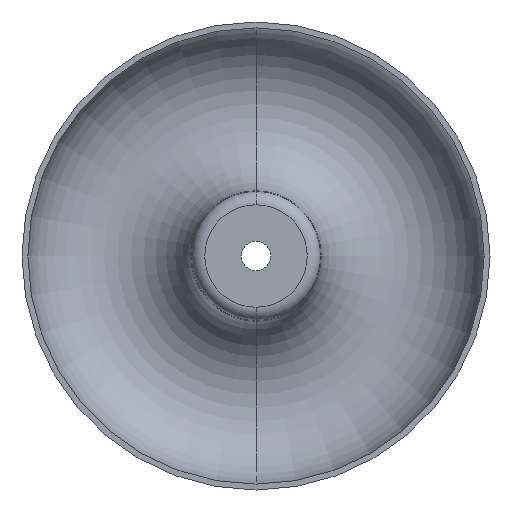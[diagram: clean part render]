
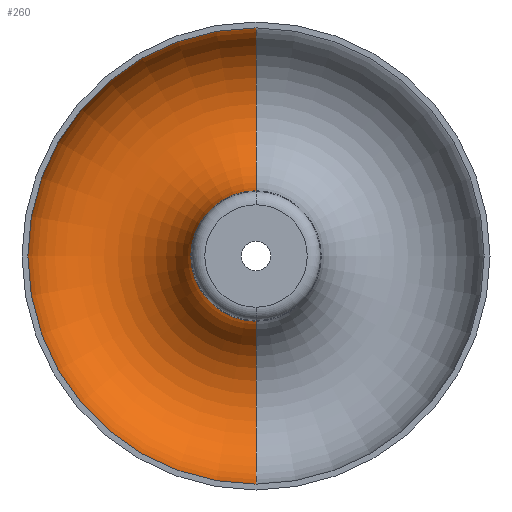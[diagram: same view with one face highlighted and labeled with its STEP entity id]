
A CAD part, front view. The second image highlights one B-rep face of the part: STEP entity #260.
In plain terms, the highlighted toroidal (fillet/blend) face has major radius 100 mm and minor radius 56 mm.
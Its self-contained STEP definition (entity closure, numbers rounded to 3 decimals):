
#10 = VERTEX_POINT ( 'NONE', #246 ) ;
#43 = DIRECTION ( 'NONE',  ( 0., -1., 0. ) ) ;
#57 = CARTESIAN_POINT ( 'NONE',  ( 0., 37.965, 0. ) ) ;
#67 = CARTESIAN_POINT ( 'NONE',  ( 0., 30., 100. ) ) ;
#78 = ORIENTED_EDGE ( 'NONE', *, *, #256, .T. ) ;
#133 = DIRECTION ( 'NONE',  ( 0., 0., 1. ) ) ;
#149 = DIRECTION ( 'NONE',  ( 0., 0., -1. ) ) ;
#164 = CIRCLE ( 'NONE', #322, 44.569 ) ;
#167 = CIRCLE ( 'NONE', #298, 156. ) ;
#199 = DIRECTION ( 'NONE',  ( 1., 0., 0. ) ) ;
#246 = CARTESIAN_POINT ( 'NONE',  ( 0., 30., 156. ) ) ;
#256 = EDGE_CURVE ( 'NONE', #10, #308, #167, .T. ) ;
#260 = ADVANCED_FACE ( 'NONE', ( #777 ), #804, .F. ) ;
#276 = ORIENTED_EDGE ( 'NONE', *, *, #525, .F. ) ;
#281 = EDGE_LOOP ( 'NONE', ( #276, #457, #78, #443 ) ) ;
#298 = AXIS2_PLACEMENT_3D ( 'NONE', #504, #497, #149 ) ;
#308 = VERTEX_POINT ( 'NONE', #659 ) ;
#322 = AXIS2_PLACEMENT_3D ( 'NONE', #57, #686, #546 ) ;
#327 = CIRCLE ( 'NONE', #375, 56. ) ;
#333 = DIRECTION ( 'NONE',  ( -1., 0., 0. ) ) ;
#375 = AXIS2_PLACEMENT_3D ( 'NONE', #700, #333, #133 ) ;
#384 = EDGE_CURVE ( 'NONE', #582, #308, #327, .T. ) ;
#392 = EDGE_CURVE ( 'NONE', #660, #10, #805, .T. ) ;
#443 = ORIENTED_EDGE ( 'NONE', *, *, #384, .F. ) ;
#457 = ORIENTED_EDGE ( 'NONE', *, *, #392, .T. ) ;
#497 = DIRECTION ( 'NONE',  ( 0., -1., 0. ) ) ;
#504 = CARTESIAN_POINT ( 'NONE',  ( 0., 30., 0. ) ) ;
#525 = EDGE_CURVE ( 'NONE', #660, #582, #164, .T. ) ;
#546 = DIRECTION ( 'NONE',  ( 0., 0., -1. ) ) ;
#582 = VERTEX_POINT ( 'NONE', #903 ) ;
#606 = CARTESIAN_POINT ( 'NONE',  ( 0., 30., 0. ) ) ;
#657 = AXIS2_PLACEMENT_3D ( 'NONE', #67, #199, #759 ) ;
#659 = CARTESIAN_POINT ( 'NONE',  ( 0., 30., -156. ) ) ;
#660 = VERTEX_POINT ( 'NONE', #779 ) ;
#686 = DIRECTION ( 'NONE',  ( 0., -1., 0. ) ) ;
#700 = CARTESIAN_POINT ( 'NONE',  ( 0., 30., -100. ) ) ;
#759 = DIRECTION ( 'NONE',  ( 0., 0., -1. ) ) ;
#777 = FACE_OUTER_BOUND ( 'NONE', #281, .T. ) ;
#779 = CARTESIAN_POINT ( 'NONE',  ( 0., 37.965, 44.569 ) ) ;
#804 = TOROIDAL_SURFACE ( 'NONE', #901, 100., 56. ) ;
#805 = CIRCLE ( 'NONE', #657, 56. ) ;
#859 = DIRECTION ( 'NONE',  ( 0., 0., -1. ) ) ;
#901 = AXIS2_PLACEMENT_3D ( 'NONE', #606, #43, #859 ) ;
#903 = CARTESIAN_POINT ( 'NONE',  ( 0., 37.965, -44.569 ) ) ;
